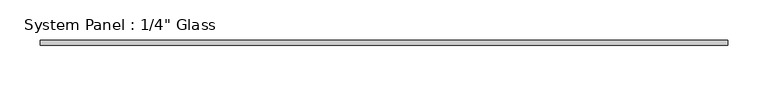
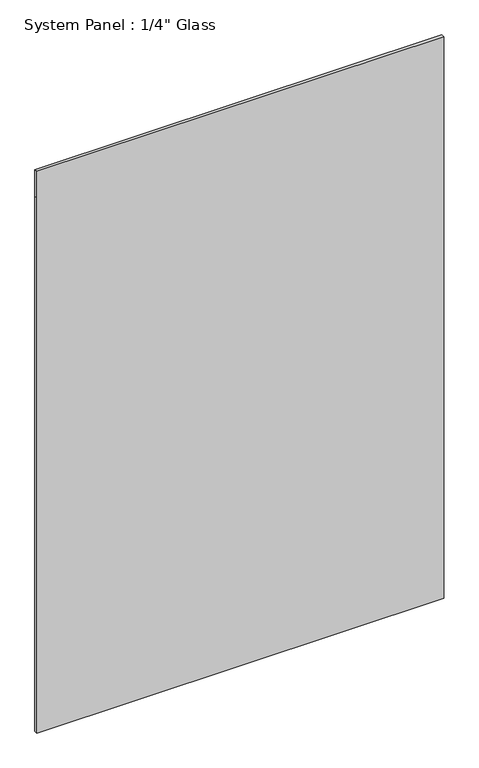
"""IFC4 building model written with IfcOpenShell, lengths in millimetres: plate geometry."""

from ifc_helpers import new_model, si_unit, frame, origin, place, context, project, spatial, polyline, outline, extrude, source, transform, mapped, element, save


def plate_d8a04414(model_context):
    return source(origin(), model_context, "Body", "SweptSolid", [
        extrude(outline(polyline([(0.0, -425.856477), (0.0, 425.856477), (1184.275, 425.856477), (1242.5844027, 425.856477), (1242.5844027, -425.856477), (1184.275, -425.856477), (0.0, -425.856477)])), frame((0.0, -3.175, 0.0), z_axis=(0.0, 1.0, 0.0), x_axis=(0.0, 0.0, 1.0)), (0.0, 0.0, 1.0), 6.35),
    ])


if __name__ == "__main__":
    model = new_model("IFC4")
    model_context = context("Model", 3, world=origin())
    ifc_project = project(units=[si_unit("LENGTHUNIT", "METRE", prefix="MILLI")], contexts=[model_context])
    site = spatial("IfcSite", under=ifc_project)
    building = spatial("IfcBuilding", under=site)
    placement = place(None, origin())
    plate_shape = plate_d8a04414(model_context)
    element("IfcPlate", 1, ObjectType="System Panel : 1/4\" Glass", at=placement, inside=building, context=model_context, shape_type="MappedRepresentation", body=[
        mapped(plate_shape, transform((0.0, 0.0, 0.0), x_axis=(1.0, 0.0, 0.0), y_axis=(0.0, 1.0, 0.0), z_axis=(0.0, 0.0, 1.0))),
    ])
    save(model, "model.ifc")
